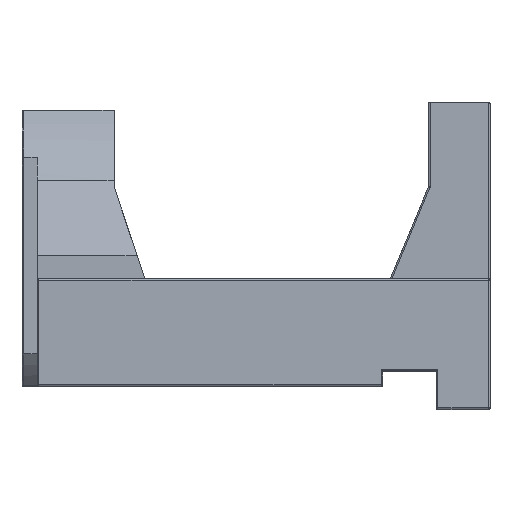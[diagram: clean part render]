
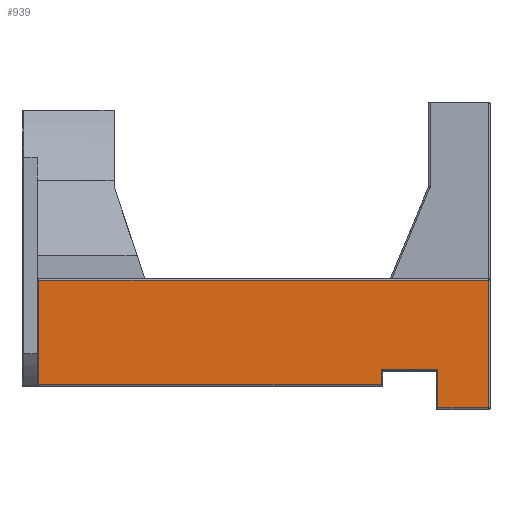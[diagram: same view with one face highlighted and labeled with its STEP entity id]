
A CAD part, top view. The second image highlights one B-rep face of the part: STEP entity #939.
In plain terms, the highlighted planar face has unit normal (0, 0, 1).
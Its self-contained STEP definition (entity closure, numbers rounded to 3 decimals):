
#107 = ORIENTED_EDGE ( 'NONE', *, *, #4742, .T. ) ;
#156 = VECTOR ( 'NONE', #2462, 1000. ) ;
#330 = DIRECTION ( 'NONE',  ( 0., -1., 0. ) ) ;
#359 = EDGE_CURVE ( 'NONE', #6228, #3746, #4583, .T. ) ;
#370 = CARTESIAN_POINT ( 'NONE',  ( -6.8, -3., 26. ) ) ;
#454 = VECTOR ( 'NONE', #5243, 1000. ) ;
#554 = LINE ( 'NONE', #3782, #1728 ) ;
#653 = CARTESIAN_POINT ( 'NONE',  ( -6.8, -14.8, 26. ) ) ;
#705 = LINE ( 'NONE', #2164, #5927 ) ;
#741 = VERTEX_POINT ( 'NONE', #5710 ) ;
#881 = ORIENTED_EDGE ( 'NONE', *, *, #5089, .T. ) ;
#939 = ADVANCED_FACE ( 'NONE', ( #3579 ), #4626, .F. ) ;
#1180 = VERTEX_POINT ( 'NONE', #2381 ) ;
#1233 = CARTESIAN_POINT ( 'NONE',  ( 0., -19.8, 26. ) ) ;
#1474 = LINE ( 'NONE', #2464, #156 ) ;
#1683 = CARTESIAN_POINT ( 'NONE',  ( -58.8, -3., 26. ) ) ;
#1710 = DIRECTION ( 'NONE',  ( 0., -1., 0. ) ) ;
#1728 = VECTOR ( 'NONE', #3733, 1000. ) ;
#1800 = EDGE_CURVE ( 'NONE', #3746, #1180, #5364, .T. ) ;
#1871 = LINE ( 'NONE', #5530, #4410 ) ;
#1899 = ORIENTED_EDGE ( 'NONE', *, *, #5612, .T. ) ;
#2075 = DIRECTION ( 'NONE',  ( 1., 0., 0. ) ) ;
#2126 = AXIS2_PLACEMENT_3D ( 'NONE', #4714, #4527, #4589 ) ;
#2164 = CARTESIAN_POINT ( 'NONE',  ( -59., -14.8, 26. ) ) ;
#2381 = CARTESIAN_POINT ( 'NONE',  ( -14.2, -16.8, 26. ) ) ;
#2462 = DIRECTION ( 'NONE',  ( 0., 1., 0. ) ) ;
#2464 = CARTESIAN_POINT ( 'NONE',  ( -0.2, -3., 26. ) ) ;
#2744 = ORIENTED_EDGE ( 'NONE', *, *, #1800, .T. ) ;
#3075 = DIRECTION ( 'NONE',  ( 1., 0., 0. ) ) ;
#3185 = CARTESIAN_POINT ( 'NONE',  ( -14.2, -14.8, 26. ) ) ;
#3413 = VECTOR ( 'NONE', #1710, 1000. ) ;
#3446 = ORIENTED_EDGE ( 'NONE', *, *, #359, .T. ) ;
#3579 = FACE_OUTER_BOUND ( 'NONE', #5635, .T. ) ;
#3589 = CARTESIAN_POINT ( 'NONE',  ( -0.2, -19.8, 26. ) ) ;
#3733 = DIRECTION ( 'NONE',  ( 0., 1., 0. ) ) ;
#3746 = VERTEX_POINT ( 'NONE', #6123 ) ;
#3778 = CARTESIAN_POINT ( 'NONE',  ( -59., -16.8, 26. ) ) ;
#3782 = CARTESIAN_POINT ( 'NONE',  ( -14.2, -3., 26. ) ) ;
#3881 = VECTOR ( 'NONE', #330, 1000. ) ;
#3996 = VERTEX_POINT ( 'NONE', #5116 ) ;
#4050 = LINE ( 'NONE', #370, #3881 ) ;
#4309 = EDGE_CURVE ( 'NONE', #1180, #5344, #554, .T. ) ;
#4354 = VERTEX_POINT ( 'NONE', #3589 ) ;
#4410 = VECTOR ( 'NONE', #5519, 1000. ) ;
#4527 = DIRECTION ( 'NONE',  ( 0., 0., -1. ) ) ;
#4583 = LINE ( 'NONE', #1683, #3413 ) ;
#4589 = DIRECTION ( 'NONE',  ( -1., 0., 0. ) ) ;
#4626 = PLANE ( 'NONE',  #2126 ) ;
#4628 = EDGE_CURVE ( 'NONE', #4354, #741, #1474, .T. ) ;
#4660 = VECTOR ( 'NONE', #3075, 1000. ) ;
#4714 = CARTESIAN_POINT ( 'NONE',  ( -59., -3., 26. ) ) ;
#4742 = EDGE_CURVE ( 'NONE', #5344, #5045, #705, .T. ) ;
#5045 = VERTEX_POINT ( 'NONE', #653 ) ;
#5088 = ORIENTED_EDGE ( 'NONE', *, *, #5307, .T. ) ;
#5089 = EDGE_CURVE ( 'NONE', #5045, #3996, #4050, .T. ) ;
#5116 = CARTESIAN_POINT ( 'NONE',  ( -6.8, -19.8, 26. ) ) ;
#5243 = DIRECTION ( 'NONE',  ( 1., 0., 0. ) ) ;
#5307 = EDGE_CURVE ( 'NONE', #3996, #4354, #6161, .T. ) ;
#5344 = VERTEX_POINT ( 'NONE', #3185 ) ;
#5364 = LINE ( 'NONE', #3778, #454 ) ;
#5519 = DIRECTION ( 'NONE',  ( -1., 0., 0. ) ) ;
#5530 = CARTESIAN_POINT ( 'NONE',  ( -59., -3.2, 26. ) ) ;
#5612 = EDGE_CURVE ( 'NONE', #741, #6228, #1871, .T. ) ;
#5635 = EDGE_LOOP ( 'NONE', ( #1899, #3446, #2744, #6196, #107, #881, #5088, #5727 ) ) ;
#5688 = CARTESIAN_POINT ( 'NONE',  ( -58.8, -3.2, 26. ) ) ;
#5710 = CARTESIAN_POINT ( 'NONE',  ( -0.2, -3.2, 26. ) ) ;
#5727 = ORIENTED_EDGE ( 'NONE', *, *, #4628, .T. ) ;
#5927 = VECTOR ( 'NONE', #2075, 1000. ) ;
#6123 = CARTESIAN_POINT ( 'NONE',  ( -58.8, -16.8, 26. ) ) ;
#6161 = LINE ( 'NONE', #1233, #4660 ) ;
#6196 = ORIENTED_EDGE ( 'NONE', *, *, #4309, .T. ) ;
#6228 = VERTEX_POINT ( 'NONE', #5688 ) ;
